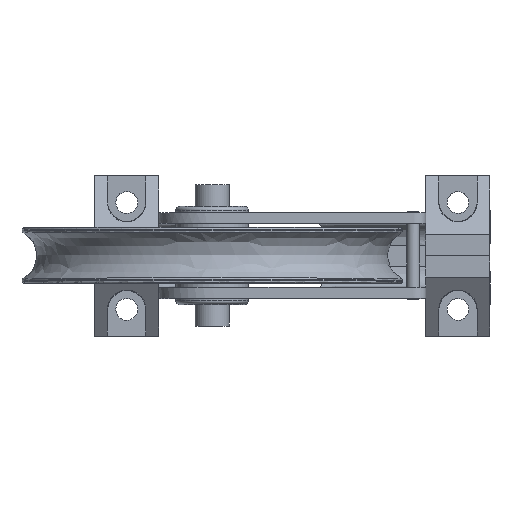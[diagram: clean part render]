
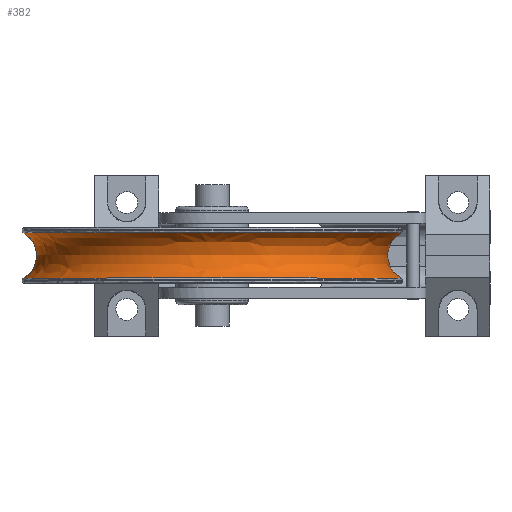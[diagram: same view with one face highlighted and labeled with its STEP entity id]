
A CAD part, top view. The second image highlights one B-rep face of the part: STEP entity #382.
In plain terms, the highlighted free-form (B-spline) face has degree [2, 2] with [5, 5] control points.
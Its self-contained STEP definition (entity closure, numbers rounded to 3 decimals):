
#382=ADVANCED_FACE('',(#740),#4456,.T.);
#740=FACE_OUTER_BOUND('',#1098,.T.);
#1098=EDGE_LOOP('',(#1581,#1582,#1583,#1584));
#1581=ORIENTED_EDGE('',*,*,#3257,.T.);
#1582=ORIENTED_EDGE('',*,*,#3258,.T.);
#1583=ORIENTED_EDGE('',*,*,#3166,.F.);
#1584=ORIENTED_EDGE('',*,*,#3256,.F.);
#3166=EDGE_CURVE('',#3960,#3961,#14640,.T.);
#3256=EDGE_CURVE('',#4014,#3960,#14698,.T.);
#3257=EDGE_CURVE('',#4014,#4015,#14699,.T.);
#3258=EDGE_CURVE('',#4015,#3961,#14700,.T.);
#3960=VERTEX_POINT('',#6666);
#3961=VERTEX_POINT('',#6667);
#4014=VERTEX_POINT('',#6720);
#4015=VERTEX_POINT('',#6721);
#4456=(
BOUNDED_SURFACE()
B_SPLINE_SURFACE(2,2,((#6017,#6018,#6019,#6020,#6021),(#6022,#6023,#6024,
#6025,#6026),(#6027,#6028,#6029,#6030,#6031),(#6032,#6033,#6034,#6035,#6036),
(#6037,#6038,#6039,#6040,#6041)),.UNSPECIFIED.,.F.,.F.,.F.)
B_SPLINE_SURFACE_WITH_KNOTS((3,2,3),(3,2,3),(0.,1.571,3.142),
(43.456,56.549,69.641),.UNSPECIFIED.)
GEOMETRIC_REPRESENTATION_ITEM()
RATIONAL_B_SPLINE_SURFACE(((1.,0.855,1.,0.855,1.),
(0.707,0.604,0.707,0.604,
0.707),(1.,0.855,1.,0.855,1.),(0.707,
0.604,0.707,0.604,0.707),
(1.,0.855,1.,0.855,1.)))
REPRESENTATION_ITEM('')
SURFACE()
);
#5283=CARTESIAN_POINT('',(113.462,-94.584,130.));
#5284=CARTESIAN_POINT('',(107.,-97.946,130.));
#5285=CARTESIAN_POINT('',(107.,-105.23,130.));
#5286=CARTESIAN_POINT('',(107.,-112.513,130.));
#5287=CARTESIAN_POINT('',(113.462,-115.875,130.));
#5621=CARTESIAN_POINT('',(-63.462,-94.584,130.));
#5622=CARTESIAN_POINT('',(-63.462,-94.584,218.462));
#5623=CARTESIAN_POINT('',(25.,-94.584,218.462));
#5624=CARTESIAN_POINT('',(113.462,-94.584,218.462));
#5625=CARTESIAN_POINT('',(113.462,-94.584,130.));
#5626=CARTESIAN_POINT('',(-63.462,-94.584,130.));
#5627=CARTESIAN_POINT('',(-57.,-97.946,130.));
#5628=CARTESIAN_POINT('',(-57.,-105.23,130.));
#5629=CARTESIAN_POINT('',(-57.,-112.513,130.));
#5630=CARTESIAN_POINT('',(-63.462,-115.875,130.));
#5631=CARTESIAN_POINT('',(-63.462,-115.875,130.));
#5632=CARTESIAN_POINT('',(-63.462,-115.875,218.462));
#5633=CARTESIAN_POINT('',(25.,-115.875,218.462));
#5634=CARTESIAN_POINT('',(113.462,-115.875,218.462));
#5635=CARTESIAN_POINT('',(113.462,-115.875,130.));
#6017=CARTESIAN_POINT('',(113.462,-94.584,130.));
#6018=CARTESIAN_POINT('',(107.,-97.946,130.));
#6019=CARTESIAN_POINT('',(107.,-105.23,130.));
#6020=CARTESIAN_POINT('',(107.,-112.513,130.));
#6021=CARTESIAN_POINT('',(113.462,-115.875,130.));
#6022=CARTESIAN_POINT('',(113.462,-94.584,218.462));
#6023=CARTESIAN_POINT('',(107.,-97.946,212.));
#6024=CARTESIAN_POINT('',(107.,-105.23,212.));
#6025=CARTESIAN_POINT('',(107.,-112.513,212.));
#6026=CARTESIAN_POINT('',(113.462,-115.875,218.462));
#6027=CARTESIAN_POINT('',(25.,-94.584,218.462));
#6028=CARTESIAN_POINT('',(25.,-97.946,212.));
#6029=CARTESIAN_POINT('',(25.,-105.23,212.));
#6030=CARTESIAN_POINT('',(25.,-112.513,212.));
#6031=CARTESIAN_POINT('',(25.,-115.875,218.462));
#6032=CARTESIAN_POINT('',(-63.462,-94.584,218.462));
#6033=CARTESIAN_POINT('',(-57.,-97.946,212.));
#6034=CARTESIAN_POINT('',(-57.,-105.23,212.));
#6035=CARTESIAN_POINT('',(-57.,-112.513,212.));
#6036=CARTESIAN_POINT('',(-63.462,-115.875,218.462));
#6037=CARTESIAN_POINT('',(-63.462,-94.584,130.));
#6038=CARTESIAN_POINT('',(-57.,-97.946,130.));
#6039=CARTESIAN_POINT('',(-57.,-105.23,130.));
#6040=CARTESIAN_POINT('',(-57.,-112.513,130.));
#6041=CARTESIAN_POINT('',(-63.462,-115.875,130.));
#6666=CARTESIAN_POINT('',(113.462,-94.584,130.));
#6667=CARTESIAN_POINT('',(113.462,-115.875,130.));
#6720=CARTESIAN_POINT('',(-63.462,-94.584,130.));
#6721=CARTESIAN_POINT('',(-63.462,-115.875,130.));
#14640=(
BOUNDED_CURVE()
B_SPLINE_CURVE(2,(#5283,#5284,#5285,#5286,#5287),.UNSPECIFIED.,.F.,.F.)
B_SPLINE_CURVE_WITH_KNOTS((3,2,3),(43.456,56.549,69.641),
.UNSPECIFIED.)
CURVE()
GEOMETRIC_REPRESENTATION_ITEM()
RATIONAL_B_SPLINE_CURVE((1.,0.855,1.,0.855,1.))
REPRESENTATION_ITEM('')
);
#14698=(
BOUNDED_CURVE()
B_SPLINE_CURVE(2,(#5621,#5622,#5623,#5624,#5625),.UNSPECIFIED.,.F.,.F.)
B_SPLINE_CURVE_WITH_KNOTS((3,2,3),(-3.142,-1.571,0.),
.UNSPECIFIED.)
CURVE()
GEOMETRIC_REPRESENTATION_ITEM()
RATIONAL_B_SPLINE_CURVE((1.,0.707,1.,0.707,1.))
REPRESENTATION_ITEM('')
);
#14699=(
BOUNDED_CURVE()
B_SPLINE_CURVE(2,(#5626,#5627,#5628,#5629,#5630),.UNSPECIFIED.,.F.,.F.)
B_SPLINE_CURVE_WITH_KNOTS((3,2,3),(43.456,56.549,69.641),
.UNSPECIFIED.)
CURVE()
GEOMETRIC_REPRESENTATION_ITEM()
RATIONAL_B_SPLINE_CURVE((1.,0.855,1.,0.855,1.))
REPRESENTATION_ITEM('')
);
#14700=(
BOUNDED_CURVE()
B_SPLINE_CURVE(2,(#5631,#5632,#5633,#5634,#5635),.UNSPECIFIED.,.F.,.F.)
B_SPLINE_CURVE_WITH_KNOTS((3,2,3),(-3.142,-1.571,0.),
.UNSPECIFIED.)
CURVE()
GEOMETRIC_REPRESENTATION_ITEM()
RATIONAL_B_SPLINE_CURVE((1.,0.707,1.,0.707,1.))
REPRESENTATION_ITEM('')
);
